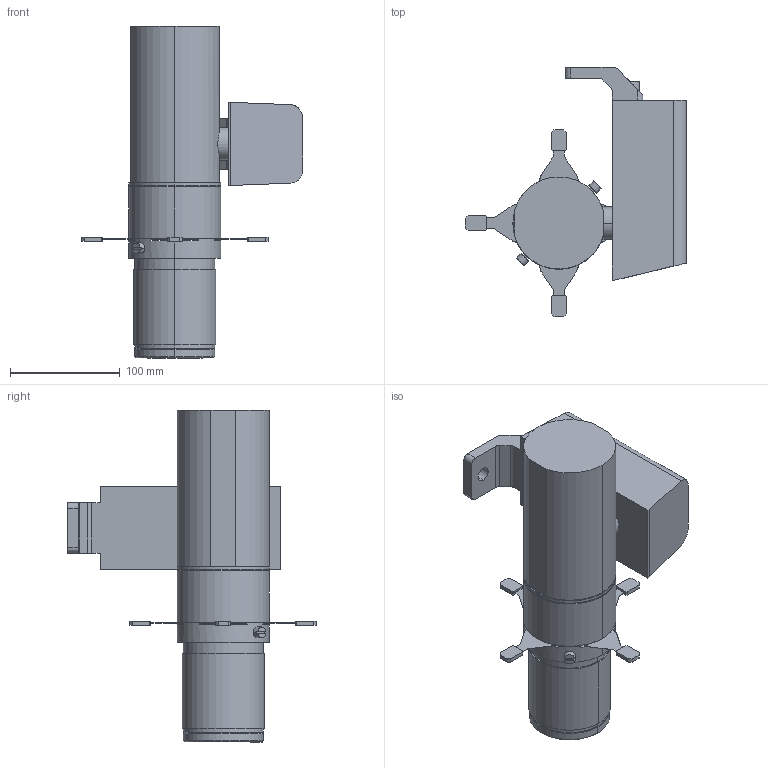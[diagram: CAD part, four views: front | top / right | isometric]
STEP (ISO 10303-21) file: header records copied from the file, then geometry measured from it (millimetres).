
FILE_DESCRIPTION (( 'STEP AP203' ), '1' );
FILE_NAME ('P1L (Clamp_Sidecar_W)_Hanging+36D_10-06-2026.STEP', '2026-06-11T05:23:09', ( '' ), ( '' ), 'SwSTEP 2.0', 'SolidWorks 2014', '' );
FILE_SCHEMA (( 'CONFIG_CONTROL_DESIGN' ));
Length unit declared in the file: millimetre
Products named in the file (4): P1L - Light Body_W; Sidecar_Yoke+PSU_(Clamp_W); 36D_Fresnel Lens_P1L_W; P1L (Clamp_Sidecar_W)_Hanging+36D_10-06-2026
Assembly tree (3 placements, depth 2):
  P1L (Clamp_Sidecar_W)_Hanging+36D_10-06-2026
    Sidecar_Yoke+PSU_(Clamp_W)
    P1L - Light Body_W
    36D_Fresnel Lens_P1L_W
Bounding box: 201.56 x 227.16 x 302.7 mm (x, y, z)
Volume: 2359084.4 mm3; surface area: 180430.9 mm2
Topology: 3 solids, 3 shells, 270 faces, 713 edges, 464 vertices
Faces by surface type: plane 172, cylinder 84, cone 14
Entity records: 8903 total; most frequent: CARTESIAN_POINT 1627, DIRECTION 1459, ORIENTED_EDGE 1426, EDGE_CURVE 713, LINE 491, VECTOR 491, AXIS2_PLACEMENT_3D 484, VERTEX_POINT 464
